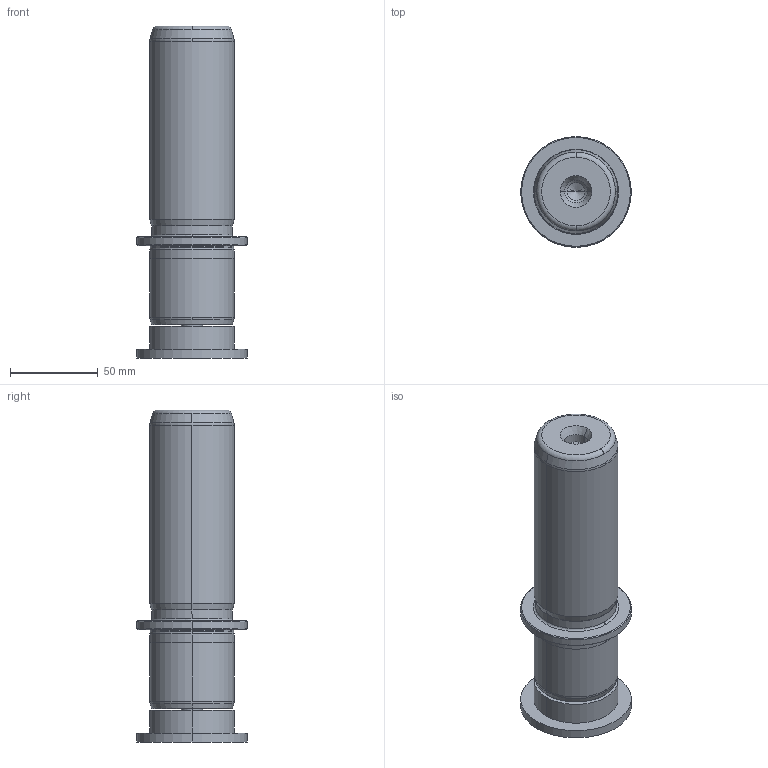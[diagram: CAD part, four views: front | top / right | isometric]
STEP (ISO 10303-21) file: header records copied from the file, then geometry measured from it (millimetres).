
FILE_DESCRIPTION((''),'2;1');
FILE_NAME('P22_048_125.stp','2009-11-02T10:35:11',(''),(''),'Mechanical Desktop 2009','Mechanical Desktop 2009',', , ');
FILE_SCHEMA(('CONFIG_CONTROL_DESIGN'));
Length unit declared in the file: millimetre
Products named in the file (2): Product; blmdl1
Assembly tree (1 placements, depth 2):
  Product
    blmdl1
Bounding box: 63 x 63 x 189 mm (x, y, z)
Volume: 343933.6 mm3; surface area: 46330.4 mm2
Topology: 3 solids, 3 shells, 99 faces, 237 edges, 149 vertices
Faces by surface type: cylinder 32, cone 28, plane 19, torus 10, bspline 10
Entity records: 3419 total; most frequent: CARTESIAN_POINT 923, DIRECTION 570, ORIENTED_EDGE 466, AXIS2_PLACEMENT_3D 246, EDGE_CURVE 233, CIRCLE 155, VERTEX_POINT 149, EDGE_LOOP 110
